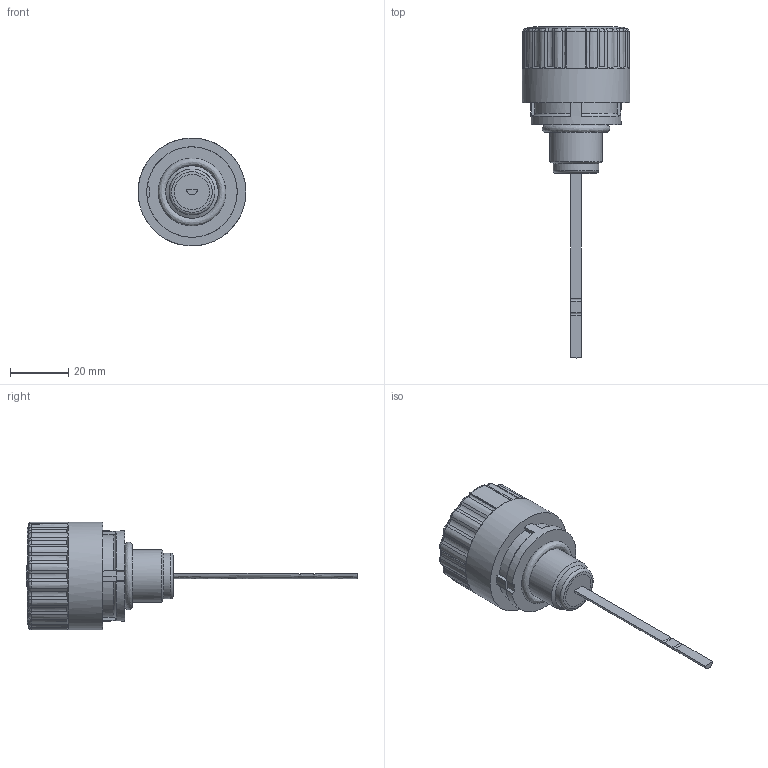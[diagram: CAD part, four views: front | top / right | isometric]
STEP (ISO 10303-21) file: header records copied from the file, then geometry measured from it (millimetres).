
FILE_DESCRIPTION((''),'2;1');
FILE_NAME('U:\Users\r.stiegele\L1_0406-76(12152900).stp', '2014-03-11T07:29:30',('User'),('SDRC'),'I-DEAS Master Series 9','UNIX', 'Yes');
FILE_SCHEMA(('AUTOMOTIVE_DESIGN { 1 0 10303 214 1 1 1 1 }'));
Length unit declared in the file: millimetre
Products named in the file (1): 12152900(334687)
Bounding box: 37 x 113.9 x 36.98 mm (x, y, z)
Volume: 37333.5 mm3; surface area: 7852.3 mm2
Topology: 1 solids, 1 shells, 442 faces, 1184 edges, 759 vertices
Faces by surface type: bspline 442
Entity records: 13684 total; most frequent: CARTESIAN_POINT 6714, ORIENTED_EDGE 2360, EDGE_CURVE 1180, VERTEX_POINT 759, B_SPLINE_CURVE_WITH_KNOTS 577, EDGE_LOOP 461, FACE_OUTER_BOUND 442, ADVANCED_FACE 442
